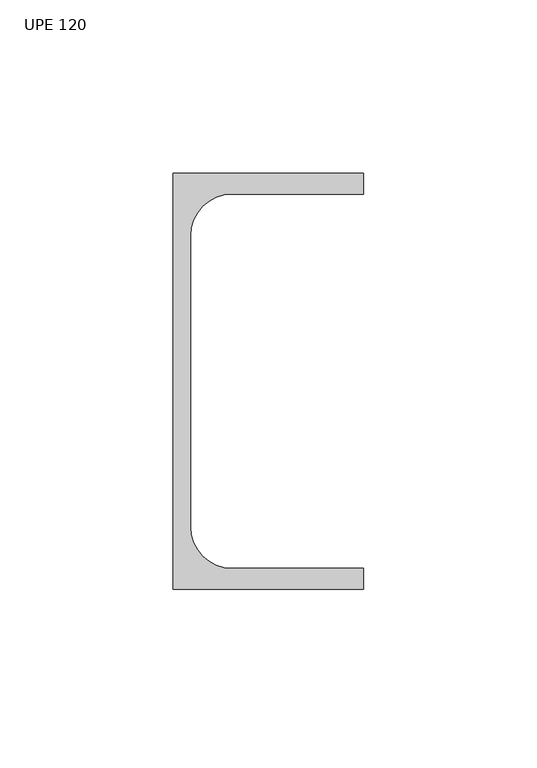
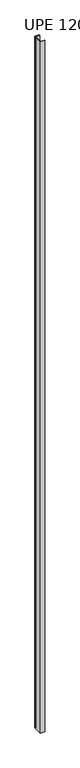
"""IFC4 building model written with IfcOpenShell, lengths in millimetres: column geometry, UPE - Canales de ala paralela - Pilar : UPE 120."""

import ifcopenshell
import ifcopenshell.guid

model = None  # the IFC model being written
_history = None  # IfcOwnerHistory: only IFC2X3 demands one
_inside = {}  # id of a spatial element -> (the spatial element, [elements in it])
_under = {}  # id of a project, library or spatial element -> (it, [spatial elements below it])
_declared = {}  # id of a project -> (the project, [libraries it declares])
_typed = {}  # id of a type object -> (the type object, [elements of that type])
_made_of = {}  # id of a material, layer set ... -> (it, [elements and type objects made of it])


def new_model(schema):
    """Start an empty IFC model of exactly this schema.

    Asked for "IFC4X3", IfcOpenShell would pick the latest addendum, in which some entities
    have other attributes; the version numbers below select the first issue.
    IFC2X3 requires an IfcOwnerHistory on every rooted entity: one is made here for all.
    """
    global model, _history
    if schema == "IFC4X3":
        model = ifcopenshell.file(schema_version=(4, 3, 0, 0))
    else:
        model = ifcopenshell.file(schema=schema)
    _inside.clear()
    _under.clear()
    _declared.clear()
    _typed.clear()
    _made_of.clear()
    _history = None
    if model.schema == "IFC2X3":
        org = make("IfcOrganization", Name="unknown")
        user = make(
            "IfcPersonAndOrganization",
            ThePerson=make("IfcPerson", FamilyName="unknown"),
            TheOrganization=org,
        )
        app = make(
            "IfcApplication",
            ApplicationDeveloper=org,
            Version="unknown",
            ApplicationFullName="unknown",
            ApplicationIdentifier="unknown",
        )
        _history = make(
            "IfcOwnerHistory",
            OwningUser=user,
            OwningApplication=app,
            ChangeAction="ADDED",
            CreationDate=0,
        )
    return model


def make(cls, **values):
    """One entity of the class cls with the attributes given. An attribute that is None is left unset."""
    return model.create_entity(
        cls, **{name: value for name, value in values.items() if value is not None}
    )


def rooted(cls, **values):
    """An entity with a GlobalId (a new one), such as an element, a storey or a relation."""
    return make(cls, GlobalId=ifcopenshell.guid.new(), OwnerHistory=_history, **values)


def si_unit(unit_type, name, prefix=None):
    """IfcSIUnit, for example si_unit("LENGTHUNIT", "METRE", prefix="MILLI")."""
    return make("IfcSIUnit", UnitType=unit_type, Prefix=prefix, Name=name)


def assignment(units):
    """IfcUnitAssignment: the units of a project."""
    return None if units is None else make("IfcUnitAssignment", Units=units)


def point(xyz):
    """IfcCartesianPoint."""
    return None if xyz is None else make("IfcCartesianPoint", Coordinates=xyz)


def direction(xyz):
    """IfcDirection."""
    return None if xyz is None else make("IfcDirection", DirectionRatios=xyz)


def frame(location, z_axis=None, x_axis=None):
    """IfcAxis2Placement3D, a coordinate frame: its origin and axes. An axis left out is left unset."""
    return make(
        "IfcAxis2Placement3D",
        Location=point(location),
        Axis=direction(z_axis),
        RefDirection=direction(x_axis),
    )


def frame_2d(location, x_axis=None):
    """IfcAxis2Placement2D, a coordinate frame in the plane: its origin and x axis."""
    return make(
        "IfcAxis2Placement2D", Location=point(location), RefDirection=direction(x_axis)
    )


def origin():
    """The frame at (0, 0, 0) with its axes left unset."""
    return frame((0.0, 0.0, 0.0))


def origin_with_axes():
    """The frame at (0, 0, 0) with the z axis (0, 0, 1) and the x axis (1, 0, 0) written out."""
    return frame((0.0, 0.0, 0.0), z_axis=(0.0, 0.0, 1.0), x_axis=(1.0, 0.0, 0.0))


def place(relative_to, where):
    """IfcLocalPlacement: puts the frame where relative to a parent placement (None: the world)."""
    return make(
        "IfcLocalPlacement", PlacementRelTo=relative_to, RelativePlacement=where
    )


def context(
    kind, dimensions, precision=None, world=None, true_north=None, identifier=None
):
    """IfcGeometricRepresentationContext, for example the 3D "Model" context."""
    return make(
        "IfcGeometricRepresentationContext",
        ContextIdentifier=identifier,
        ContextType=kind,
        CoordinateSpaceDimension=dimensions,
        Precision=precision,
        WorldCoordinateSystem=world,
        TrueNorth=true_north,
    )


def project(units=None, contexts=None):
    """IfcProject with its units and contexts."""
    return rooted(
        "IfcProject",
        Name="project",
        RepresentationContexts=contexts,
        UnitsInContext=assignment(units),
    )


def spatial(cls, under=None, at=None, **own):
    """A site, building, storey or space (cls), placed at a placement, below another one or the project."""
    s = rooted(cls, ObjectPlacement=at, **own)
    if under is not None:
        _under.setdefault(under.id(), (under, []))[1].append(s)
    return s


def polyline(points):
    """IfcPolyline through the points."""
    return make("IfcPolyline", Points=[point(p) for p in points])


def circle_curve(where, radius):
    """IfcCircle in the frame where."""
    return make("IfcCircle", Position=where, Radius=radius)


def trimmed(basis, trim1, trim2, sense, master):
    """IfcTrimmedCurve: the piece of a basis curve between two trims."""
    return make(
        "IfcTrimmedCurve",
        BasisCurve=basis,
        Trim1=trim1,
        Trim2=trim2,
        SenseAgreement=sense,
        MasterRepresentation=master,
    )


def segment(curve, same_sense, transition):
    """IfcCompositeCurveSegment."""
    return make(
        "IfcCompositeCurveSegment",
        Transition=transition,
        SameSense=same_sense,
        ParentCurve=curve,
    )


def composite_curve(segments, self_intersect=None):
    """IfcCompositeCurve: segments joined end to end."""
    return make("IfcCompositeCurve", Segments=segments, SelfIntersect=self_intersect)


def outline(outer, holes=None, kind="AREA"):
    """IfcArbitraryClosedProfileDef: a profile drawn as a closed curve; with holes, ...WithVoids."""
    if holes is None:
        return make("IfcArbitraryClosedProfileDef", ProfileType=kind, OuterCurve=outer)
    return make(
        "IfcArbitraryProfileDefWithVoids",
        ProfileType=kind,
        OuterCurve=outer,
        InnerCurves=holes,
    )


def extrude(swept, where, along, depth):
    """IfcExtrudedAreaSolid: the profile swept, set in the frame where, extruded along a direction by depth."""
    return make(
        "IfcExtrudedAreaSolid",
        SweptArea=swept,
        Position=where,
        ExtrudedDirection=direction(along),
        Depth=depth,
    )


def shape(context_of_items, identifier, shape_type, items):
    """IfcShapeRepresentation: the items that make up one representation, for example the "Body"."""
    return make(
        "IfcShapeRepresentation",
        ContextOfItems=context_of_items,
        RepresentationIdentifier=identifier,
        RepresentationType=shape_type,
        Items=items,
    )


def source(mapping_origin, context_of_items, identifier, shape_type, items):
    """IfcRepresentationMap: a shape defined once, which mapped items show again and again."""
    return make(
        "IfcRepresentationMap",
        MappingOrigin=mapping_origin,
        MappedRepresentation=shape(context_of_items, identifier, shape_type, items),
    )


def transform(
    local_origin,
    x_axis=None,
    y_axis=None,
    z_axis=None,
    scale=None,
    scale2=None,
    scale3=None,
    uniform=True,
):
    """IfcCartesianTransformationOperator3D, or its non-uniform kind. x_axis, y_axis, z_axis: its Axis1, 2, 3."""
    if uniform:
        return make(
            "IfcCartesianTransformationOperator3D",
            Axis1=direction(x_axis),
            Axis2=direction(y_axis),
            LocalOrigin=point(local_origin),
            Scale=scale,
            Axis3=direction(z_axis),
        )
    return make(
        "IfcCartesianTransformationOperator3DnonUniform",
        Axis1=direction(x_axis),
        Axis2=direction(y_axis),
        LocalOrigin=point(local_origin),
        Scale=scale,
        Axis3=direction(z_axis),
        Scale2=scale2,
        Scale3=scale3,
    )


def mapped(mapping_source, mapping_target):
    """IfcMappedItem: shows the shape of a source again, moved by a transform."""
    return make(
        "IfcMappedItem", MappingSource=mapping_source, MappingTarget=mapping_target
    )


def made_of(thing, what):
    """Note that an element or type object is made of a material, layer set ...; save() writes the relation."""
    if what is not None:
        _made_of.setdefault(what.id(), (what, []))[1].append(thing)
    return thing


def element(
    cls,
    number,
    at=None,
    inside=None,
    cuts=None,
    type_object=None,
    material=None,
    context=None,
    identifier="Body",
    shape_type=None,
    held_by="IfcProductDefinitionShape",
    body=None,
    shapes=None,
    **own,
):
    """One element of the class cls, such as IfcWall. Its Tag is "e" and its number.

    at: its placement. inside: the storey or other place that contains it. cuts: it is an
    opening in that element (IfcRelVoidsElement). A single representation is given by context,
    identifier, shape_type and body (its items); several are given by shapes. held_by: the class
    of the entity that holds the representations. save() writes the other relations.
    """
    e = rooted(cls, Tag="e%d" % number, ObjectPlacement=at, **own)
    if body is not None:
        shapes = [shape(context, identifier, shape_type, body)]
    if shapes is not None:
        e.Representation = make(held_by, Representations=shapes)
    if inside is not None:
        _inside.setdefault(inside.id(), (inside, []))[1].append(e)
    if cuts is not None:
        rooted(
            "IfcRelVoidsElement", RelatingBuildingElement=cuts, RelatedOpeningElement=e
        )
    if type_object is not None:
        _typed.setdefault(type_object.id(), (type_object, []))[1].append(e)
    return made_of(e, material)


def aggregate(whole, parts):
    """IfcRelAggregates: a whole, such as a stair, and the parts it consists of."""
    return rooted("IfcRelAggregates", RelatingObject=whole, RelatedObjects=parts)


def save(model, path):
    """Write the relations noted so far, then the file.

    IfcRelAggregates (storeys below a building ...), IfcRelContainedInSpatialStructure (elements
    in a storey), IfcRelDefinesByType, IfcRelAssociatesMaterial and IfcRelDeclares: one each for
    every whole, place, type object, material and project.
    """
    for whole, parts in _under.values():
        aggregate(whole, parts)
    for where, things in _inside.values():
        rooted(
            "IfcRelContainedInSpatialStructure",
            RelatedElements=things,
            RelatingStructure=where,
        )
    for kind, things in _typed.values():
        rooted("IfcRelDefinesByType", RelatedObjects=things, RelatingType=kind)
    for what, things in _made_of.values():
        rooted("IfcRelAssociatesMaterial", RelatedObjects=things, RelatingMaterial=what)
    for by, libraries in _declared.values():
        rooted("IfcRelDeclares", RelatingContext=by, RelatedDefinitions=libraries)
    model.write(path)


def upe_120_1fc0e0ef(model_context):
    return source(origin(), model_context, "Body", "SweptSolid", [
        extrude(outline(composite_curve([segment(polyline([(-19.8, 60.0), (35.2, 60.0), (35.2, 54.0), (-2.8, 54.0)]), True, "CONTINUOUS"), segment(trimmed(circle_curve(frame_2d((-2.8, 42.0)), 12.0), [point((-2.8, 54.0))], [point((-14.8, 42.0))], True, "CARTESIAN"), True, "CONTINUOUS"), segment(polyline([(-14.8, 42.0), (-14.8, -42.0)]), True, "CONTINUOUS"), segment(trimmed(circle_curve(frame_2d((-2.8, -42.0)), 12.0), [point((-14.8, -42.0))], [point((-2.8, -54.0))], True, "CARTESIAN"), True, "CONTINUOUS"), segment(polyline([(-2.8, -54.0), (35.2, -54.0), (35.2, -60.0), (-19.8, -60.0), (-19.8, 60.0)]), True, "CONTINUOUS")], self_intersect=False)), origin_with_axes(), (0.0, 0.0, 1.0), 9270.0),
    ])


if __name__ == "__main__":
    model = new_model("IFC4")
    model_context = context("Model", 3, world=origin())
    ifc_project = project(units=[si_unit("LENGTHUNIT", "METRE", prefix="MILLI")], contexts=[model_context])
    site = spatial("IfcSite", under=ifc_project)
    building = spatial("IfcBuilding", under=site)
    placement = place(None, origin())
    upe_120_shape = upe_120_1fc0e0ef(model_context)
    element("IfcColumn", 1, ObjectType="UPE - Canales de ala paralela - Pilar : UPE 120", at=placement, inside=building, context=model_context, shape_type="MappedRepresentation", body=[
        mapped(upe_120_shape, transform((0.0, 0.0, 0.0), x_axis=(1.0, 0.0, 0.0), y_axis=(0.0, 1.0, 0.0), z_axis=(0.0, 0.0, 1.0))),
    ])
    save(model, "model.ifc")
